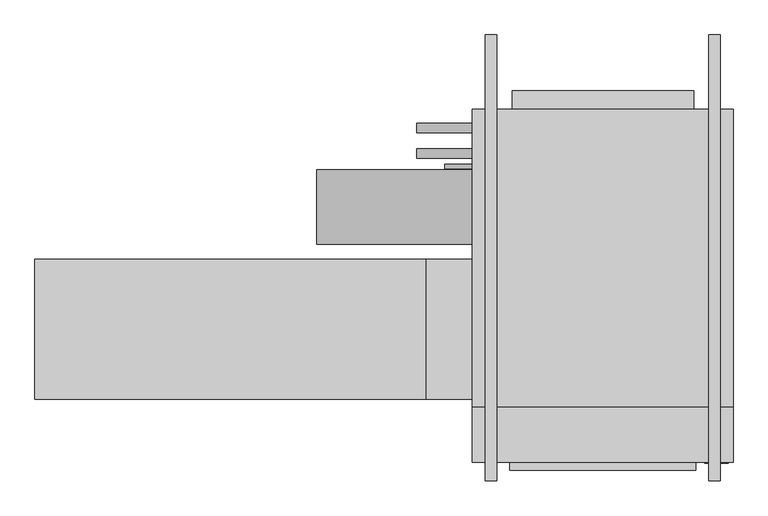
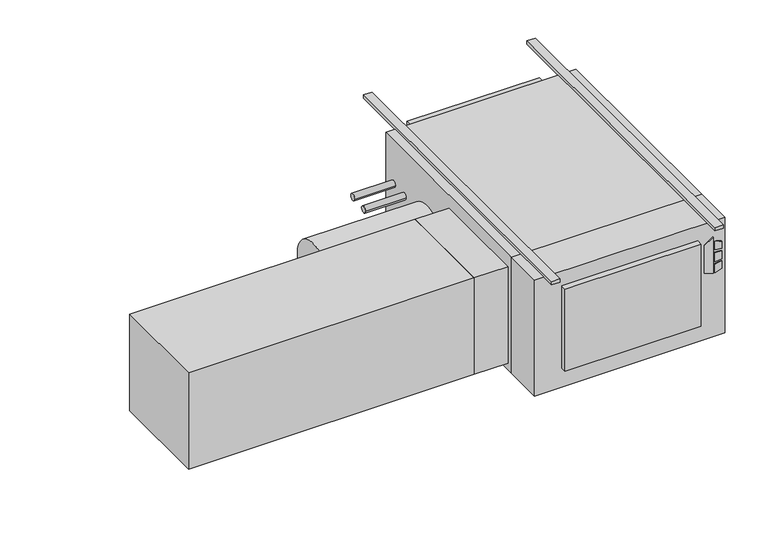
"""IFC4 building model written with IfcOpenShell, lengths in millimetres: proxy geometry."""

import ifcopenshell
import ifcopenshell.guid

model = None  # the IFC model being written
_history = None  # IfcOwnerHistory: only IFC2X3 demands one
_inside = {}  # id of a spatial element -> (the spatial element, [elements in it])
_under = {}  # id of a project, library or spatial element -> (it, [spatial elements below it])
_declared = {}  # id of a project -> (the project, [libraries it declares])
_typed = {}  # id of a type object -> (the type object, [elements of that type])
_made_of = {}  # id of a material, layer set ... -> (it, [elements and type objects made of it])


def new_model(schema):
    """Start an empty IFC model of exactly this schema.

    Asked for "IFC4X3", IfcOpenShell would pick the latest addendum, in which some entities
    have other attributes; the version numbers below select the first issue.
    IFC2X3 requires an IfcOwnerHistory on every rooted entity: one is made here for all.
    """
    global model, _history
    if schema == "IFC4X3":
        model = ifcopenshell.file(schema_version=(4, 3, 0, 0))
    else:
        model = ifcopenshell.file(schema=schema)
    _inside.clear()
    _under.clear()
    _declared.clear()
    _typed.clear()
    _made_of.clear()
    _history = None
    if model.schema == "IFC2X3":
        org = make("IfcOrganization", Name="unknown")
        user = make(
            "IfcPersonAndOrganization",
            ThePerson=make("IfcPerson", FamilyName="unknown"),
            TheOrganization=org,
        )
        app = make(
            "IfcApplication",
            ApplicationDeveloper=org,
            Version="unknown",
            ApplicationFullName="unknown",
            ApplicationIdentifier="unknown",
        )
        _history = make(
            "IfcOwnerHistory",
            OwningUser=user,
            OwningApplication=app,
            ChangeAction="ADDED",
            CreationDate=0,
        )
    return model


def make(cls, **values):
    """One entity of the class cls with the attributes given. An attribute that is None is left unset."""
    return model.create_entity(
        cls, **{name: value for name, value in values.items() if value is not None}
    )


def rooted(cls, **values):
    """An entity with a GlobalId (a new one), such as an element, a storey or a relation."""
    return make(cls, GlobalId=ifcopenshell.guid.new(), OwnerHistory=_history, **values)


def si_unit(unit_type, name, prefix=None):
    """IfcSIUnit, for example si_unit("LENGTHUNIT", "METRE", prefix="MILLI")."""
    return make("IfcSIUnit", UnitType=unit_type, Prefix=prefix, Name=name)


def assignment(units):
    """IfcUnitAssignment: the units of a project."""
    return None if units is None else make("IfcUnitAssignment", Units=units)


def point(xyz):
    """IfcCartesianPoint."""
    return None if xyz is None else make("IfcCartesianPoint", Coordinates=xyz)


def direction(xyz):
    """IfcDirection."""
    return None if xyz is None else make("IfcDirection", DirectionRatios=xyz)


def frame(location, z_axis=None, x_axis=None):
    """IfcAxis2Placement3D, a coordinate frame: its origin and axes. An axis left out is left unset."""
    return make(
        "IfcAxis2Placement3D",
        Location=point(location),
        Axis=direction(z_axis),
        RefDirection=direction(x_axis),
    )


def frame_2d(location, x_axis=None):
    """IfcAxis2Placement2D, a coordinate frame in the plane: its origin and x axis."""
    return make(
        "IfcAxis2Placement2D", Location=point(location), RefDirection=direction(x_axis)
    )


def origin():
    """The frame at (0, 0, 0) with its axes left unset."""
    return frame((0.0, 0.0, 0.0))


def origin_with_axes():
    """The frame at (0, 0, 0) with the z axis (0, 0, 1) and the x axis (1, 0, 0) written out."""
    return frame((0.0, 0.0, 0.0), z_axis=(0.0, 0.0, 1.0), x_axis=(1.0, 0.0, 0.0))


def place(relative_to, where):
    """IfcLocalPlacement: puts the frame where relative to a parent placement (None: the world)."""
    return make(
        "IfcLocalPlacement", PlacementRelTo=relative_to, RelativePlacement=where
    )


def context(
    kind, dimensions, precision=None, world=None, true_north=None, identifier=None
):
    """IfcGeometricRepresentationContext, for example the 3D "Model" context."""
    return make(
        "IfcGeometricRepresentationContext",
        ContextIdentifier=identifier,
        ContextType=kind,
        CoordinateSpaceDimension=dimensions,
        Precision=precision,
        WorldCoordinateSystem=world,
        TrueNorth=true_north,
    )


def project(units=None, contexts=None):
    """IfcProject with its units and contexts."""
    return rooted(
        "IfcProject",
        Name="project",
        RepresentationContexts=contexts,
        UnitsInContext=assignment(units),
    )


def spatial(cls, under=None, at=None, **own):
    """A site, building, storey or space (cls), placed at a placement, below another one or the project."""
    s = rooted(cls, ObjectPlacement=at, **own)
    if under is not None:
        _under.setdefault(under.id(), (under, []))[1].append(s)
    return s


def polyline(points):
    """IfcPolyline through the points."""
    return make("IfcPolyline", Points=[point(p) for p in points])


def circle_curve(where, radius):
    """IfcCircle in the frame where."""
    return make("IfcCircle", Position=where, Radius=radius)


def trimmed(basis, trim1, trim2, sense, master):
    """IfcTrimmedCurve: the piece of a basis curve between two trims."""
    return make(
        "IfcTrimmedCurve",
        BasisCurve=basis,
        Trim1=trim1,
        Trim2=trim2,
        SenseAgreement=sense,
        MasterRepresentation=master,
    )


def segment(curve, same_sense, transition):
    """IfcCompositeCurveSegment."""
    return make(
        "IfcCompositeCurveSegment",
        Transition=transition,
        SameSense=same_sense,
        ParentCurve=curve,
    )


def composite_curve(segments, self_intersect=None):
    """IfcCompositeCurve: segments joined end to end."""
    return make("IfcCompositeCurve", Segments=segments, SelfIntersect=self_intersect)


def outline(outer, holes=None, kind="AREA"):
    """IfcArbitraryClosedProfileDef: a profile drawn as a closed curve; with holes, ...WithVoids."""
    if holes is None:
        return make("IfcArbitraryClosedProfileDef", ProfileType=kind, OuterCurve=outer)
    return make(
        "IfcArbitraryProfileDefWithVoids",
        ProfileType=kind,
        OuterCurve=outer,
        InnerCurves=holes,
    )


def extrude(swept, where, along, depth):
    """IfcExtrudedAreaSolid: the profile swept, set in the frame where, extruded along a direction by depth."""
    return make(
        "IfcExtrudedAreaSolid",
        SweptArea=swept,
        Position=where,
        ExtrudedDirection=direction(along),
        Depth=depth,
    )


def shape(context_of_items, identifier, shape_type, items):
    """IfcShapeRepresentation: the items that make up one representation, for example the "Body"."""
    return make(
        "IfcShapeRepresentation",
        ContextOfItems=context_of_items,
        RepresentationIdentifier=identifier,
        RepresentationType=shape_type,
        Items=items,
    )


def source(mapping_origin, context_of_items, identifier, shape_type, items):
    """IfcRepresentationMap: a shape defined once, which mapped items show again and again."""
    return make(
        "IfcRepresentationMap",
        MappingOrigin=mapping_origin,
        MappedRepresentation=shape(context_of_items, identifier, shape_type, items),
    )


def transform(
    local_origin,
    x_axis=None,
    y_axis=None,
    z_axis=None,
    scale=None,
    scale2=None,
    scale3=None,
    uniform=True,
):
    """IfcCartesianTransformationOperator3D, or its non-uniform kind. x_axis, y_axis, z_axis: its Axis1, 2, 3."""
    if uniform:
        return make(
            "IfcCartesianTransformationOperator3D",
            Axis1=direction(x_axis),
            Axis2=direction(y_axis),
            LocalOrigin=point(local_origin),
            Scale=scale,
            Axis3=direction(z_axis),
        )
    return make(
        "IfcCartesianTransformationOperator3DnonUniform",
        Axis1=direction(x_axis),
        Axis2=direction(y_axis),
        LocalOrigin=point(local_origin),
        Scale=scale,
        Axis3=direction(z_axis),
        Scale2=scale2,
        Scale3=scale3,
    )


def mapped(mapping_source, mapping_target):
    """IfcMappedItem: shows the shape of a source again, moved by a transform."""
    return make(
        "IfcMappedItem", MappingSource=mapping_source, MappingTarget=mapping_target
    )


def made_of(thing, what):
    """Note that an element or type object is made of a material, layer set ...; save() writes the relation."""
    if what is not None:
        _made_of.setdefault(what.id(), (what, []))[1].append(thing)
    return thing


def element(
    cls,
    number,
    at=None,
    inside=None,
    cuts=None,
    type_object=None,
    material=None,
    context=None,
    identifier="Body",
    shape_type=None,
    held_by="IfcProductDefinitionShape",
    body=None,
    shapes=None,
    **own,
):
    """One element of the class cls, such as IfcWall. Its Tag is "e" and its number.

    at: its placement. inside: the storey or other place that contains it. cuts: it is an
    opening in that element (IfcRelVoidsElement). A single representation is given by context,
    identifier, shape_type and body (its items); several are given by shapes. held_by: the class
    of the entity that holds the representations. save() writes the other relations.
    """
    e = rooted(cls, Tag="e%d" % number, ObjectPlacement=at, **own)
    if body is not None:
        shapes = [shape(context, identifier, shape_type, body)]
    if shapes is not None:
        e.Representation = make(held_by, Representations=shapes)
    if inside is not None:
        _inside.setdefault(inside.id(), (inside, []))[1].append(e)
    if cuts is not None:
        rooted(
            "IfcRelVoidsElement", RelatingBuildingElement=cuts, RelatedOpeningElement=e
        )
    if type_object is not None:
        _typed.setdefault(type_object.id(), (type_object, []))[1].append(e)
    return made_of(e, material)


def aggregate(whole, parts):
    """IfcRelAggregates: a whole, such as a stair, and the parts it consists of."""
    return rooted("IfcRelAggregates", RelatingObject=whole, RelatedObjects=parts)


def save(model, path):
    """Write the relations noted so far, then the file.

    IfcRelAggregates (storeys below a building ...), IfcRelContainedInSpatialStructure (elements
    in a storey), IfcRelDefinesByType, IfcRelAssociatesMaterial and IfcRelDeclares: one each for
    every whole, place, type object, material and project.
    """
    for whole, parts in _under.values():
        aggregate(whole, parts)
    for where, things in _inside.values():
        rooted(
            "IfcRelContainedInSpatialStructure",
            RelatedElements=things,
            RelatingStructure=where,
        )
    for kind, things in _typed.values():
        rooted("IfcRelDefinesByType", RelatedObjects=things, RelatingType=kind)
    for what, things in _made_of.values():
        rooted("IfcRelAssociatesMaterial", RelatedObjects=things, RelatingMaterial=what)
    for by, libraries in _declared.values():
        rooted("IfcRelDeclares", RelatingContext=by, RelatedDefinitions=libraries)
    model.write(path)


def mechanical_equipment_044ea831(model_context):
    return source(origin(), model_context, "Body", "SweptSolid", [
        extrude(outline(polyline([(-193.2519297, 430.2868862), (-203.2, 462.4602728), (-61.0290756, 462.4602728), (-84.0510817, 430.2868862), (-193.2519297, 430.2868862)])), frame((0.0, -797.052, 0.0), z_axis=(0.0, 1.0, 0.0), x_axis=(0.0, 0.0, 1.0)), (0.0, 0.0, 1.0), 3.175),
        extrude(outline(polyline([(-114.2526443, 469.2186058), (-117.4550368, 495.3), (-88.2261958, 495.3), (-80.1617807, 469.2186058), (-114.2526443, 469.2186058)])), frame((0.0, -797.052, 0.0), z_axis=(0.0, 1.0, 0.0), x_axis=(0.0, 0.0, 1.0)), (0.0, 0.0, 1.0), 3.175),
        extrude(outline(polyline([(-166.1161712, 495.3), (-169.7816721, 469.2186058), (-203.2, 469.2186058), (-194.5657628, 495.3), (-166.1161712, 495.3)])), frame((0.0, -797.052, 0.0), z_axis=(0.0, 1.0, 0.0), x_axis=(0.0, 0.0, 1.0)), (0.0, 0.0, 1.0), 3.175),
        extrude(outline(polyline([(-126.8010097, 495.3), (-124.5191834, 469.2186058), (-160.4567319, 469.2186058), (-157.7154669, 495.3), (-126.8010097, 495.3)])), frame((0.0, -797.052, 0.0), z_axis=(0.0, 1.0, 0.0), x_axis=(0.0, 0.0, 1.0)), (0.0, 0.0, 1.0), 3.175),
        extrude(outline(polyline([(508.0, -793.877), (-203.2, -793.877), (-203.2, -644.525), (508.0, -644.525), (508.0, -793.877)])), frame((0.0, 0.0, -457.2), z_axis=(0.0, 0.0, 1.0), x_axis=(1.0, 0.0, 0.0)), (0.0, 0.0, 1.0), 457.2),
        extrude(outline(polyline([(406.4, -816.229), (-101.6, -816.229), (-101.6, -793.877), (406.4, -793.877), (406.4, -816.229)])), frame((0.0, 0.0, -381.0), z_axis=(0.0, 0.0, 1.0), x_axis=(1.0, 0.0, 0.0)), (0.0, 0.0, 1.0), 323.85),
        extrude(outline(polyline([(-1397.0, -622.3), (-1397.0, -241.3), (-330.2, -241.3), (-330.2, -622.3), (-1397.0, -622.3)])), frame((0.0, 0.0, -431.8), z_axis=(0.0, 0.0, 1.0), x_axis=(1.0, 0.0, 0.0)), (0.0, 0.0, 1.0), 381.0),
        extrude(outline(polyline([(-203.2, -241.3), (-203.2, -622.3), (-330.2, -622.3), (-330.2, -241.3), (-203.2, -241.3)])), frame((0.0, 0.0, -431.8), z_axis=(0.0, 0.0, 1.0), x_axis=(1.0, 0.0, 0.0)), (0.0, 0.0, 1.0), 381.0),
        extrude(outline(composite_curve([segment(trimmed(circle_curve(frame_2d((-98.4896516, -228.6360165)), 101.6), [point((-200.0896516, -228.6360165))], [point((3.1103484, -228.6360165))], False, "CARTESIAN"), True, "CONTINUOUS"), segment(trimmed(circle_curve(frame_2d((-98.4896516, -228.6360165)), 101.6), [point((3.1103484, -228.6360165))], [point((-200.0896516, -228.6360165))], False, "CARTESIAN"), True, "CONTINUOUS")], self_intersect=False)), frame((-628.65, 0.0, 0.0), z_axis=(1.0, 0.0, 0.0), x_axis=(0.0, 1.0, 0.0)), (0.0, 0.0, 1.0), 425.45),
        extrude(outline(composite_curve([segment(trimmed(circle_curve(frame_2d((47.625, -177.8)), 12.7), [point((34.925, -177.8))], [point((60.325, -177.8))], False, "CARTESIAN"), True, "CONTINUOUS"), segment(trimmed(circle_curve(frame_2d((47.625, -177.8)), 12.7), [point((60.325, -177.8))], [point((34.925, -177.8))], False, "CARTESIAN"), True, "CONTINUOUS")], self_intersect=False)), frame((-355.6, 0.0, 0.0), z_axis=(1.0, 0.0, 0.0), x_axis=(0.0, 1.0, 0.0)), (0.0, 0.0, 1.0), 152.4),
        extrude(outline(composite_curve([segment(trimmed(circle_curve(frame_2d((117.475, -171.45)), 12.7), [point((104.775, -171.45))], [point((130.175, -171.45))], False, "CARTESIAN"), True, "CONTINUOUS"), segment(trimmed(circle_curve(frame_2d((117.475, -171.45)), 12.7), [point((130.175, -171.45))], [point((104.775, -171.45))], False, "CARTESIAN"), True, "CONTINUOUS")], self_intersect=False)), frame((-355.6, 0.0, 0.0), z_axis=(1.0, 0.0, 0.0), x_axis=(0.0, 1.0, 0.0)), (0.0, 0.0, 1.0), 152.4),
        extrude(outline(composite_curve([segment(trimmed(circle_curve(frame_2d((12.7, -409.575)), 6.35), [point((6.35, -409.575))], [point((19.05, -409.575))], False, "CARTESIAN"), True, "CONTINUOUS"), segment(trimmed(circle_curve(frame_2d((12.7, -409.575)), 6.35), [point((19.05, -409.575))], [point((6.35, -409.575))], False, "CARTESIAN"), True, "CONTINUOUS")], self_intersect=False)), frame((-279.4, 0.0, 0.0), z_axis=(1.0, 0.0, 0.0), x_axis=(0.0, 1.0, 0.0)), (0.0, 0.0, 1.0), 76.2),
        extrude(outline(polyline([(508.0, 168.275), (508.0, -644.525), (-203.2, -644.525), (-203.2, 168.275), (508.0, 168.275)])), frame((0.0, 0.0, -457.2), z_axis=(0.0, 0.0, 1.0), x_axis=(1.0, 0.0, 0.0)), (0.0, 0.0, 1.0), 457.2),
        extrude(outline(polyline([(-95.25, 219.075), (400.05, 219.075), (400.05, 168.275), (-95.25, 168.275), (-95.25, 219.075)])), frame((0.0, 0.0, -381.0), z_axis=(0.0, 0.0, 1.0), x_axis=(1.0, 0.0, 0.0)), (0.0, 0.0, 1.0), 355.6),
        extrude(outline(polyline([(-136.525, 371.475), (-136.525, -844.677), (-168.275, -844.677), (-168.275, 371.475), (-136.525, 371.475)])), origin_with_axes(), (0.0, 0.0, 1.0), 12.7),
        extrude(outline(polyline([(473.075, 371.475), (473.075, -844.677), (441.325, -844.677), (441.325, 371.475), (473.075, 371.475)])), origin_with_axes(), (0.0, 0.0, 1.0), 12.7),
    ])


if __name__ == "__main__":
    model = new_model("IFC4")
    model_context = context("Model", 3, world=origin())
    ifc_project = project(units=[si_unit("LENGTHUNIT", "METRE", prefix="MILLI")], contexts=[model_context])
    site = spatial("IfcSite", under=ifc_project)
    building = spatial("IfcBuilding", under=site)
    placement = place(None, origin())
    mechanical_equipment_shape = mechanical_equipment_044ea831(model_context)
    element("IfcBuildingElementProxy", 1, Name="High_Capacity_Horizontal_Cabinet_Fan_Coil_Unit_-_HTY_-_IEC_-_2 Pipe, Elec Heat_LH Side_2022 : Size 08 - 277v/60Hz/1Ph - 8/0 Coil 6.0kW - 8\" AirIn", ObjectType="High_Capacity_Horizontal_Cabinet_Fan_Coil_Unit_-_HTY_-_IEC_-_2 Pipe, Elec Heat_LH Side_2022 : Size 08 - 277v/60Hz/1Ph - 8/0 Coil 6.0kW - 8\" AirIn", at=placement, inside=building, context=model_context, shape_type="MappedRepresentation", body=[
        mapped(mechanical_equipment_shape, transform((0.0, 0.0, 0.0), x_axis=(1.0, 0.0, 0.0), y_axis=(0.0, 1.0, 0.0), z_axis=(0.0, 0.0, 1.0))),
    ])
    save(model, "model.ifc")
